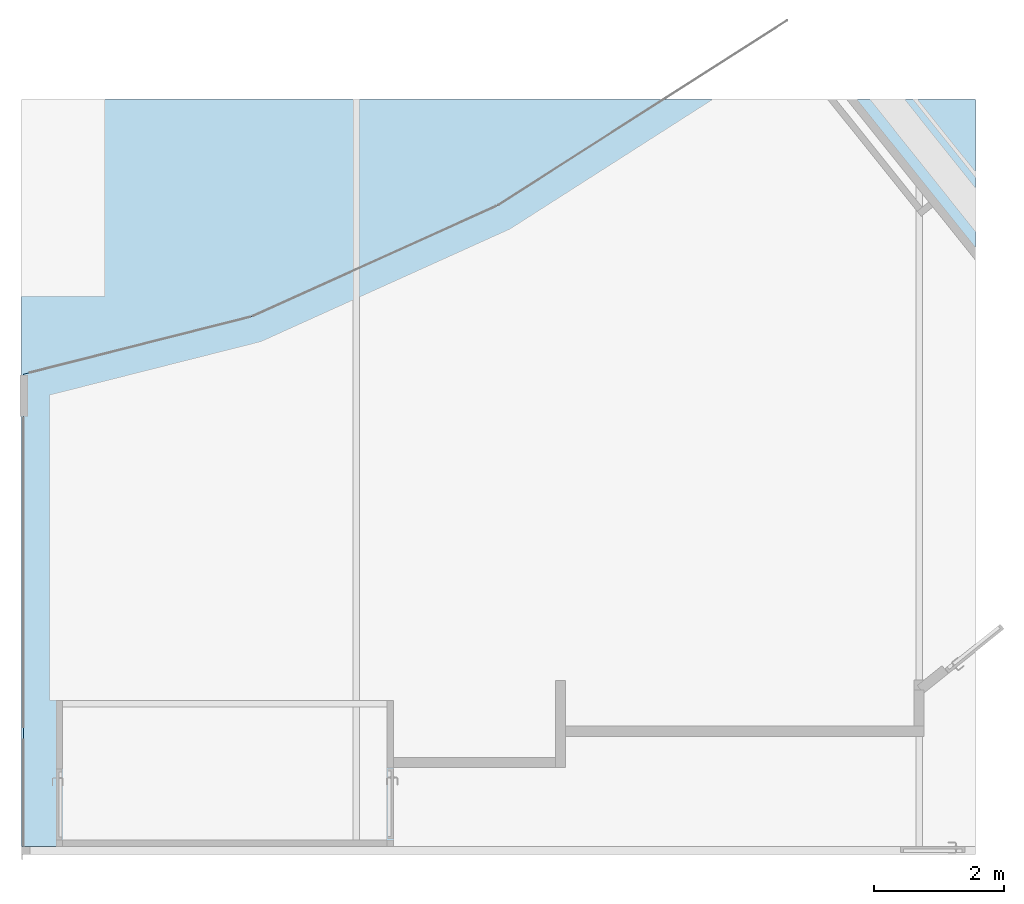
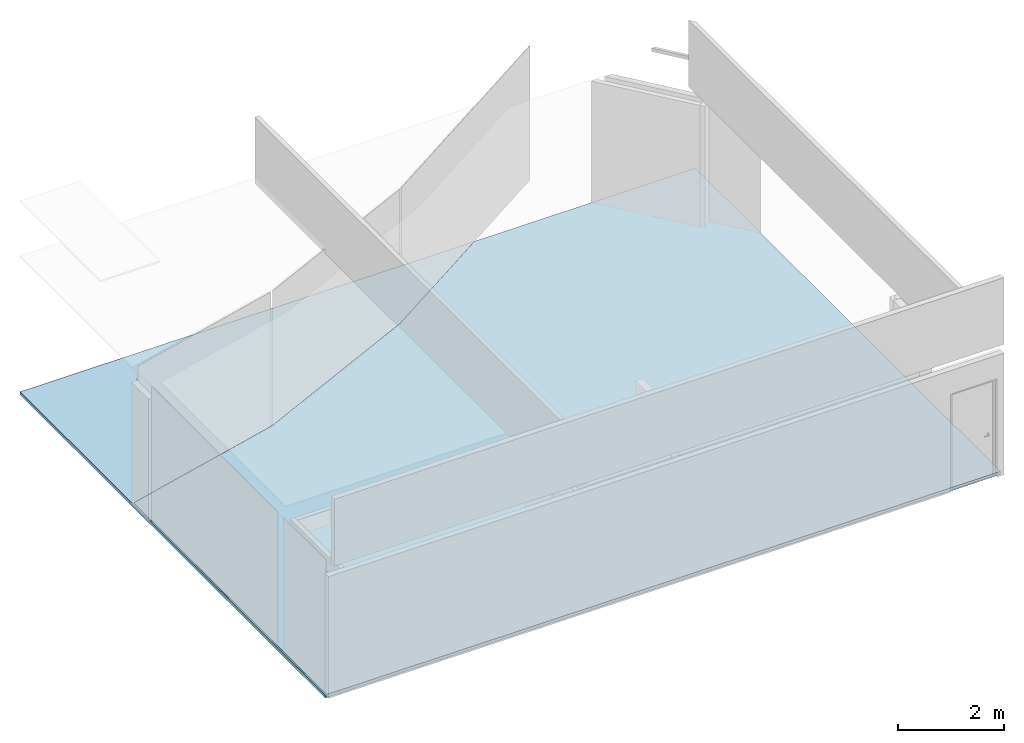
# One storey, part 5 of 7: 2 slabs.
"""IFC2X3 building model written with IfcOpenShell, lengths in millimetres."""

from ifc_helpers import new_model, entity, si_unit, converted_unit, derived_unit, direction, frame, origin_with_axes, place, context, subcontext, project, spatial, faceted_brep, material, layer, layer_set, type_object, element, save


model = new_model("IFC2X3")

# Units and contexts
model_context = context("Model", 3, precision=0.01, world=frame((0.0, 4.29681676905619e-09, 0.0)), true_north=direction((4.01073788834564e-13, 1.0)))
plan_context = context("Plan", 3, precision=0.01, world=frame((0.0, 4.29681676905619e-09, 0.0)), true_north=direction((4.01073788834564e-13, 1.0)))
body_context = subcontext(model_context, "Body", "Model", "MODEL_VIEW")
ifc_project = project(units=[converted_unit("PLANEANGLEUNIT", "DEGREE", entity("IfcPositiveLengthMeasure", 0.0174532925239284), si_unit("PLANEANGLEUNIT", "RADIAN"), dimensions=[0, 0, 0, 0, 0, 0, 0]), si_unit("AREAUNIT", "SQUARE_METRE"), si_unit("LENGTHUNIT", "METRE", prefix="MILLI"), si_unit("MASSUNIT", "GRAM", prefix="KILO"), si_unit("POWERUNIT", "WATT"), si_unit("PRESSUREUNIT", "PASCAL", prefix="KILO"), si_unit("FORCEUNIT", "NEWTON", prefix="KILO"), si_unit("ELECTRICVOLTAGEUNIT", "VOLT"), si_unit("ELECTRICCURRENTUNIT", "AMPERE"), si_unit("THERMODYNAMICTEMPERATUREUNIT", "DEGREE_CELSIUS"), si_unit("TIMEUNIT", "SECOND"), si_unit("VOLUMEUNIT", "CUBIC_METRE"), derived_unit("LINEARVELOCITYUNIT", [(si_unit("LENGTHUNIT", "METRE"), 1), (si_unit("TIMEUNIT", "SECOND"), -1)]), derived_unit("VOLUMETRICFLOWRATEUNIT", [(si_unit("VOLUMEUNIT", "CUBIC_METRE"), 1), (si_unit("TIMEUNIT", "SECOND"), -1)]), derived_unit("THERMALTRANSMITTANCEUNIT", [(si_unit("POWERUNIT", "WATT"), 1), (si_unit("THERMODYNAMICTEMPERATUREUNIT", "KELVIN"), -1), (si_unit("AREAUNIT", "SQUARE_METRE"), -1)]), derived_unit("SOUNDPRESSUREUNIT", [(si_unit("PRESSUREUNIT", "PASCAL"), 1)])], contexts=[model_context, plan_context])

# Site, building, storey
site_placement = place(None, origin_with_axes())
site = spatial("IfcSite", under=ifc_project, at=site_placement, Name="ENGM", CompositionType="ELEMENT")
building_placement = place(site_placement, origin_with_axes())
building = spatial("IfcBuilding", under=site, at=building_placement, Name="TS", CompositionType="ELEMENT")
storey_placement = place(building_placement, frame((0.0, 0.0, 210900.0), z_axis=(0.0, 0.0, 1.0), x_axis=(1.0, 0.0, 0.0)))
storey = spatial("IfcBuildingStorey", under=building, at=storey_placement, Name="Nivå F", CompositionType="ELEMENT", Elevation=210900.0)

# Slabs
ifc_material_1 = material(Name="_NSW Gulv (Generell)")
ifc_layer_1 = layer(ifc_material_1, 70.0)
ifc_layer_set_1 = layer_set([ifc_layer_1], Name="Floor:A254 - Gulvoppbygging m_f.o - 70 mm - stein")
slab_type_1 = type_object("IfcSlabType", Name="Floor:A254 - Gulvoppbygging m_f.o - 70 mm - stein", PredefinedType="FLOOR", material=ifc_layer_set_1)
slab_1_placement = place(storey_placement, origin_with_axes())
element("IfcSlab", 1, at=slab_1_placement, inside=storey, type_object=slab_type_1, Name="Floor:A254 - Gulvoppbygging m_f.o - 70 mm - stein", ObjectType="Floor:A254 - Gulvoppbygging m_f.o - 70 mm - stein", PredefinedType="FLOOR", context=body_context, shape_type="Brep", body=[
    faceted_brep([(724329.088219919, 446211.424463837, 0.0), (724329.088219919, 446211.424463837, -69.9999999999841), (721775.288353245, 444579.053995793, -69.9999999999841), (721775.288353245, 444579.053995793, 0.0), (717995.093592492, 442870.650049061, -69.9999999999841), (717995.093592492, 442870.650049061, 0.0), (714469.987500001, 441979.010461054, -69.9999999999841), (714469.987500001, 441979.010461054, 0.0), (714469.987500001, 434701.999999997, -69.9999999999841), (714469.987500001, 434701.999999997, 0.0), (714437.9875, 434701.999999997, -69.9999999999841), (714437.9875, 434701.999999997, 0.0), (714437.9875, 446211.424463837, -3.41060513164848e-13), (714437.9875, 446211.424463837, -69.9999999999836)], [[[0, 1, 2, 3]], [[3, 2, 4, 5]], [[5, 4, 6, 7]], [[7, 6, 8, 9]], [[9, 8, 10, 11]], [[11, 12, 0, 3, 5, 7, 9]], [[1, 13, 10, 8, 6, 4, 2]], [[13, 1, 0, 12]], [[12, 11, 10, 13]]], orient=[[False], [False], [False], [False], [False], [False], [False], [False], [False]]),
])
ifc_material_2 = material(Name="T2_Tregulv Gulvplaner(vert)")
ifc_layer_2 = layer(ifc_material_2, 25.0)
ifc_layer_3 = layer(ifc_material_1, 45.0)
ifc_layer_set_2 = layer_set([ifc_layer_2, ifc_layer_3], Name="Floor:A254 - Gulvoppbygging m_f.o - 70mm - tre vertikal")
slab_type_2 = type_object("IfcSlabType", Name="Floor:A254 - Gulvoppbygging m_f.o - 70mm - tre vertikal", PredefinedType="FLOOR", material=ifc_layer_set_2)
slab_2_placement = place(storey_placement, frame((714469.987500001, 434702.0, -70.0), z_axis=(0.0, 0.0, 1.0), x_axis=(1.0, 0.0, 0.0)))
element("IfcSlab", 2, at=slab_2_placement, inside=storey, type_object=slab_type_2, Name="Floor:A254 - Gulvoppbygging m_f.o - 70mm - tre vertikal", ObjectType="Floor:A254 - Gulvoppbygging m_f.o - 70mm - tre vertikal", PredefinedType="FLOOR", context=body_context, shape_type="Brep", body=[
    faceted_brep([(0.0, 1.18507159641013e-08, 70.0), (0.0, 1.18507159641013e-08, 1.59161572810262e-11), (0.0, 7277.01046106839, 1.59161572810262e-11), (0.0, 7277.01046106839, 70.0), (3525.10609249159, 8168.65004907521, 1.59161572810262e-11), (3525.10609249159, 8168.65004907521, 70.0), (7305.30085324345, 9877.05399580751, 1.59161572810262e-11), (7305.30085324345, 9877.05399580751, 70.0), (9859.10071989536, 11509.4244638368, 1.59161572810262e-11), (9859.10071989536, 11509.4244638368, 70.0), (14672.6022864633, 5.78200291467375e-09, 70.0), (14672.6022864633, 5.78200291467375e-09, 1.59161572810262e-11), (14672.6022864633, 11509.4244638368, 69.9999999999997), (14672.6022864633, 11509.4244638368, 1.63709046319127e-11)], [[[0, 1, 2, 3]], [[3, 2, 4, 5]], [[5, 4, 6, 7]], [[8, 9, 7, 6]], [[10, 11, 1, 0]], [[9, 12, 10, 0, 3, 5, 7]], [[11, 13, 8, 6, 4, 2, 1]], [[13, 11, 10, 12]], [[12, 9, 8, 13]]], orient=[[False], [False], [False], [False], [False], [False], [False], [False], [False]]),
])

save(model, "model.ifc")
